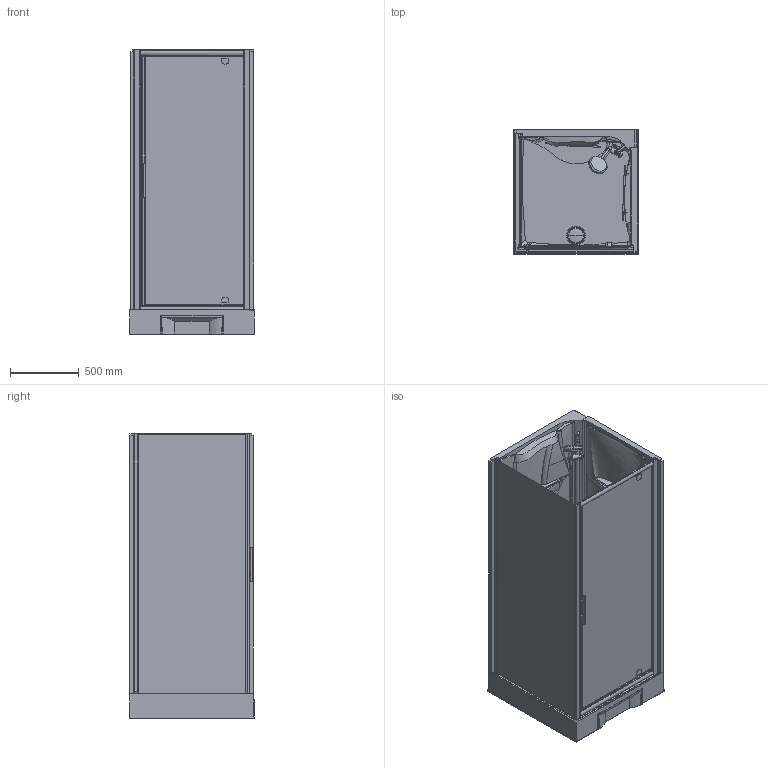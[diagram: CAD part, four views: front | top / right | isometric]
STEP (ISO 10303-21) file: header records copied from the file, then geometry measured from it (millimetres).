
FILE_DESCRIPTION(('STEP AP203'),'2;1');
FILE_NAME('NNH GF 90 M.stp','2015-09-04T15:24:10',(''),(''),'2014.1.117','THINKDESIGN','');
FILE_SCHEMA(('CONFIG_CONTROL_DESIGN'));
Length unit declared in the file: millimetre
Products named in the file (1): top
Bounding box: 904 x 907.51 x 2063.06 mm (x, y, z)
Volume: 206496651.6 mm3; surface area: 18157219.8 mm2
Topology: 26 solids, 26 shells, 626 faces, 1583 edges, 1006 vertices
Faces by surface type: bspline 372, plane 186, cylinder 68
Entity records: 85350 total; most frequent: CARTESIAN_POINT 72955, ORIENTED_EDGE 3114, EDGE_CURVE 1557, DIRECTION 1487, VERTEX_POINT 998, VECTOR 655, LINE 655, EDGE_LOOP 639
